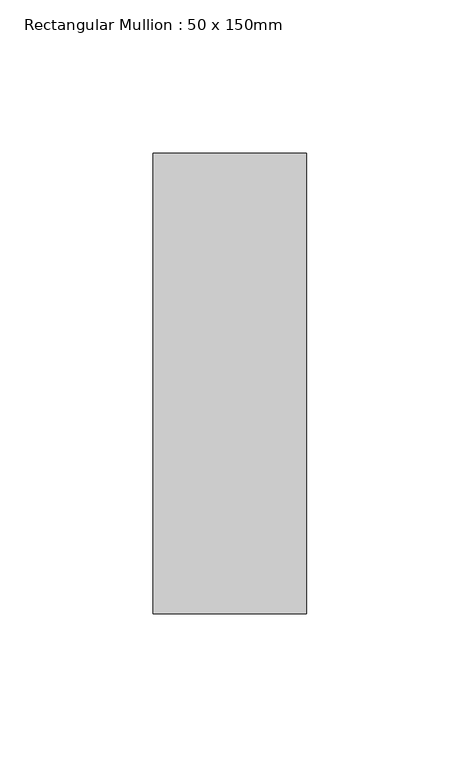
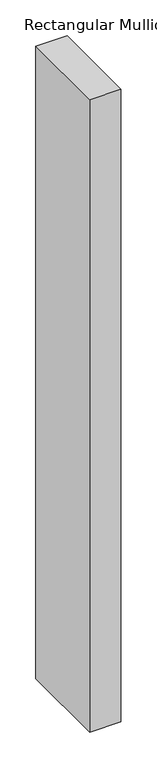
"""IFC4 building model written with IfcOpenShell, lengths in millimetres: member geometry, Rectangular Mullion : 50 x 150mm."""

from ifc_helpers import new_model, si_unit, frame, origin, place, context, project, spatial, polyline, outline, extrude, source, transform, mapped, element, save


def rectangular_mullion_50_x_150mm_cac8fc61(model_context):
    return source(origin(), model_context, "Body", "SweptSolid", [
        extrude(outline(polyline([(0.0, 75.0), (0.0, -75.0), (-50.0, -75.0), (-50.0, 75.0), (0.0, 75.0)])), frame((0.0, 0.0, -1074.2217822), z_axis=(0.0, 0.0, 1.0), x_axis=(1.0, 0.0, 0.0)), (0.0, 0.0, 1.0), 1074.2217822),
    ])


if __name__ == "__main__":
    model = new_model("IFC4")
    model_context = context("Model", 3, world=origin())
    ifc_project = project(units=[si_unit("LENGTHUNIT", "METRE", prefix="MILLI")], contexts=[model_context])
    site = spatial("IfcSite", under=ifc_project)
    building = spatial("IfcBuilding", under=site)
    placement = place(None, origin())
    rectangular_mullion_50_x_150mm_shape = rectangular_mullion_50_x_150mm_cac8fc61(model_context)
    element("IfcMember", 1, ObjectType="Rectangular Mullion : 50 x 150mm", at=placement, inside=building, context=model_context, shape_type="MappedRepresentation", body=[
        mapped(rectangular_mullion_50_x_150mm_shape, transform((0.0, 0.0, 0.0), x_axis=(1.0, 0.0, 0.0), y_axis=(0.0, 1.0, 0.0), z_axis=(0.0, 0.0, 1.0))),
    ])
    save(model, "model.ifc")
